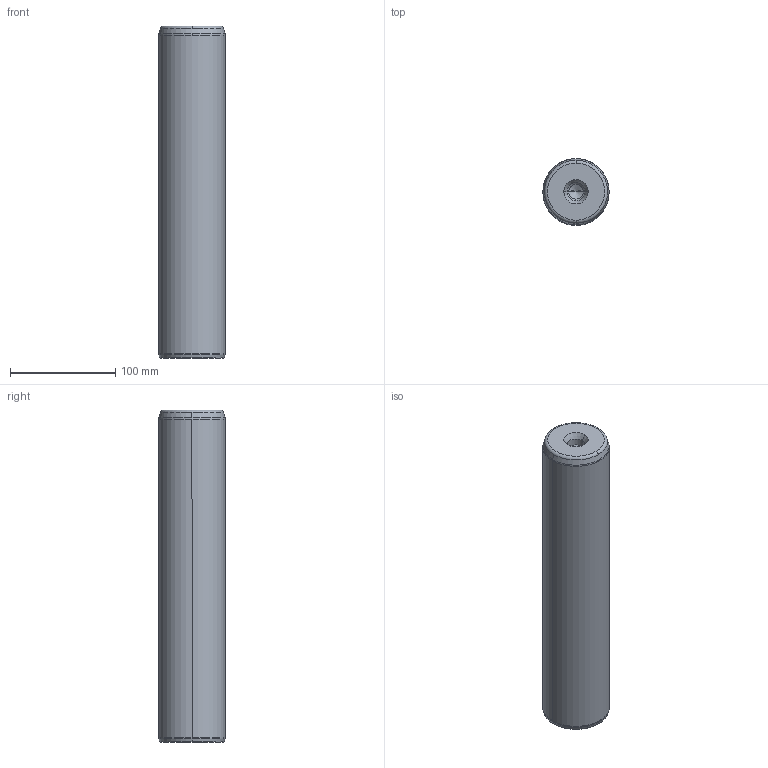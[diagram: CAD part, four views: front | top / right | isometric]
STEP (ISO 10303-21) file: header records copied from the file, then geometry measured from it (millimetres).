
FILE_DESCRIPTION((''),'2;1');
FILE_NAME('P10_063_315.stp','2008-12-23T16:17:06',(''),(''),'Mechanical Desktop 2009','Mechanical Desktop 2009',', , ');
FILE_SCHEMA(('CONFIG_CONTROL_DESIGN'));
Length unit declared in the file: millimetre
Products named in the file (5): Product; ProductAA; blmdl1; ProductA; blmdl1A
Assembly tree (2 placements, depth 3):
  Product
    ProductAA
      blmdl1
  ProductA
  blmdl1A
Bounding box: 63 x 63 x 315 mm (x, y, z)
Volume: 971228.4 mm3; surface area: 69848.3 mm2
Topology: 1 solids, 1 shells, 26 faces, 66 edges, 41 vertices
Faces by surface type: cone 10, torus 8, cylinder 6, plane 2
Entity records: 1012 total; most frequent: DIRECTION 170, CARTESIAN_POINT 134, ORIENTED_EDGE 128, AXIS2_PLACEMENT_3D 77, EDGE_CURVE 64, CIRCLE 48, VERTEX_POINT 41, EDGE_LOOP 27
